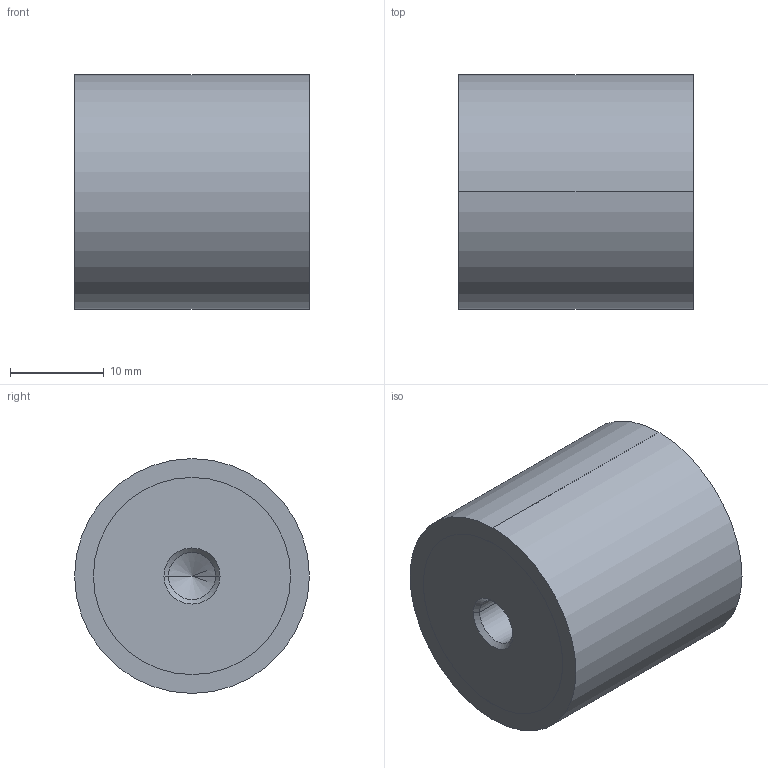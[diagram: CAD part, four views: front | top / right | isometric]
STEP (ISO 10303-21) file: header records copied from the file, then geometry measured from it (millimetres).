
FILE_DESCRIPTION (( 'STEP AP214' ), '1' );
FILE_NAME ('351-25-25-M6-EE-55.step', '2025-07-23T09:47:44', ( '' ), ( '' ), 'SwSTEP 2.0', 'SolidWorks 2022', '' );
FILE_SCHEMA (( 'AUTOMOTIVE_DESIGN' ));
Length unit declared in the file: millimetre
Products named in the file (1): 351-25-25-M6-EE-55
Bounding box: 25 x 25 x 25 mm (x, y, z)
Volume: 11968.3 mm3; surface area: 3163.4 mm2
Topology: 1 solids, 1 shells, 28 faces, 58 edges, 34 vertices
Faces by surface type: cylinder 14, cone 8, plane 6
Entity records: 844 total; most frequent: DIRECTION 144, CARTESIAN_POINT 117, ORIENTED_EDGE 108, AXIS2_PLACEMENT_3D 61, EDGE_CURVE 54, EDGE_LOOP 34, VERTEX_POINT 34, CIRCLE 32
